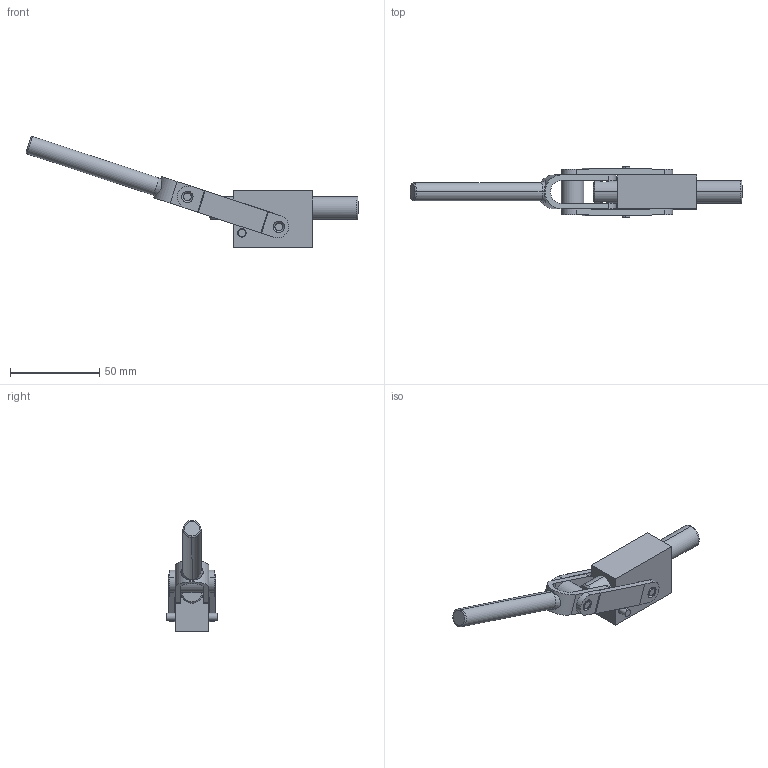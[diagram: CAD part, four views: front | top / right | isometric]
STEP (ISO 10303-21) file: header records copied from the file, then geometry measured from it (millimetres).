
FILE_DESCRIPTION( ( '' ), '1' );
FILE_NAME( 'C:\Documents and Settings\Richard Grenzke\My Documents\Wolverine Company Data\WOLVERINE CD 5_17_05\SOLIDS STEP\straight_line\c131.stp', ' ', ( '' ), ( '' ), 'ACIS Interop R16', 'Kubotek KeyCreator V5.5.1 (0454)', ' ' );
FILE_SCHEMA( ( 'CONFIG_CONTROL_DESIGN' ) );
Length unit declared in the file: inch
Products named in the file (12): 1; 2; 3; 4; 5; 6; 7; 8; 9; 10; 11; 12
Bounding box: 186.21 x 28.57 x 62.28 mm (x, y, z)
Volume: 46780.5 mm3; surface area: 22803.3 mm2
Topology: 11 solids, 11 shells, 134 faces, 362 edges, 251 vertices
Faces by surface type: cylinder 58, plane 56, cone 16, torus 4
Entity records: 5024 total; most frequent: CARTESIAN_POINT 891, DIRECTION 821, ORIENTED_EDGE 724, EDGE_CURVE 362, AXIS2_PLACEMENT_3D 325, VERTEX_POINT 251, CIRCLE 179, LINE 171
